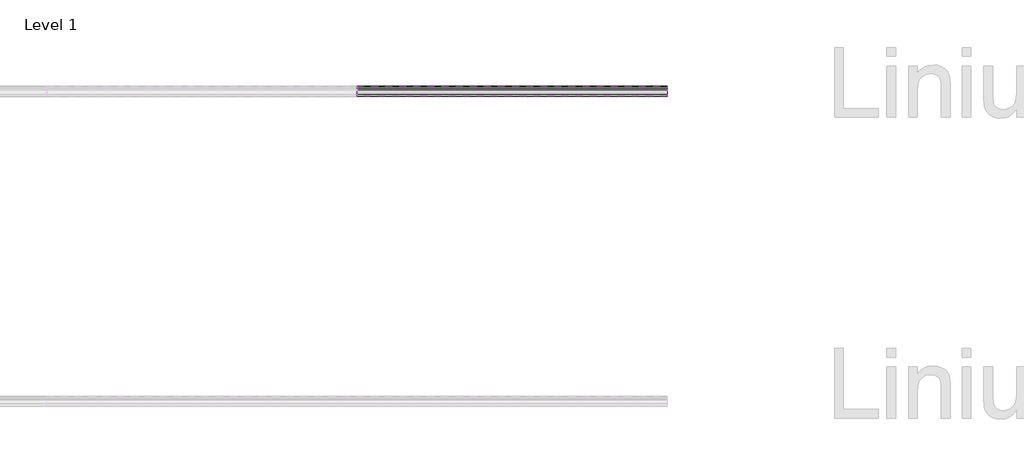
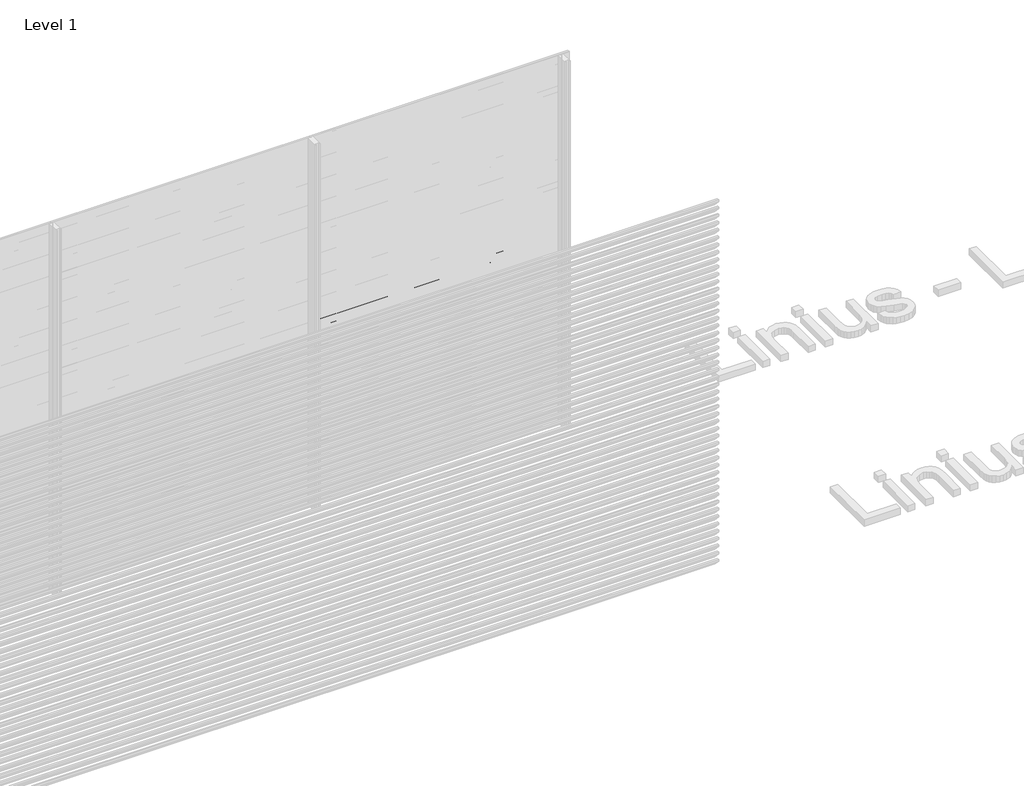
# One storey, part 118 of 153: 26 proxies.
"""IFC4 building model written with IfcOpenShell, lengths in millimetres."""

from ifc_helpers import new_model, si_unit, point, frame, frame_2d, origin, place, context, project, spatial, polyline, circle_curve, trimmed, segment, composite_curve, outline, extrude, element, save

model = new_model("IFC4")

# Units and contexts
model_context = context("Model", 3, world=origin())
ifc_project = project(units=[si_unit("LENGTHUNIT", "METRE", prefix="MILLI")], contexts=[model_context])

# Site, building, storey
site = spatial("IfcSite", under=ifc_project)
building = spatial("IfcBuilding", under=site)
storey = spatial("IfcBuildingStorey", under=building, Name="Level 1", Elevation=0.0)

# Proxies
placement = place(None, origin())
element("IfcBuildingElementProxy", 1, Name="Wall Sweeps", at=placement, inside=storey, context=model_context, shape_type="SweptSolid", body=[
    extrude(outline(composite_curve([segment(polyline([(51485.0540136, 1560.0), (51499.874191, 1558.7034025), (51549.0540136, 1505.0102749), (51549.0540136, 1493.6108187)]), True, "CONTINUOUS"), segment(trimmed(circle_curve(frame_2d((51545.7883652, 1493.897153)), 3.2781774), [point((51549.0540136, 1493.6108187))], [point((51546.4639442, 1490.6893438))], False, "CARTESIAN"), True, "CONTINUOUS"), segment(polyline([(51546.4639442, 1490.6893438), (51534.1895723, 1491.6282758), (51485.0540136, 1545.2730773), (51485.0540136, 1560.0)]), True, "CONTINUOUS")], self_intersect=False), holes=[composite_curve([segment(polyline([(51499.1621773, 1557.2599659), (51486.5540136, 1558.3630372), (51486.5540136, 1545.856213), (51534.8952036, 1493.0786805), (51546.3312542, 1492.2038762)]), True, "CONTINUOUS"), segment(trimmed(circle_curve(frame_2d((51545.7883652, 1493.897153)), 1.7781774), [point((51546.3312542, 1492.2038762))], [point((51547.5540136, 1493.6864389))], True, "CARTESIAN"), True, "CONTINUOUS"), segment(polyline([(51547.5540136, 1493.6864389), (51547.5540136, 1504.4271392), (51499.1621773, 1557.2599659)]), True, "CONTINUOUS")], self_intersect=False)]), frame((48966.6208096, 0.0, 0.0), z_axis=(1.0, 0.0, 0.0), x_axis=(0.0, 1.0, 0.0)), (0.0, 0.0, 1.0), 2000.0000001),
])
element("IfcBuildingElementProxy", 2, Name="Wall Sweeps", at=placement, inside=storey, context=model_context, shape_type="SweptSolid", body=[
    extrude(outline(composite_curve([segment(polyline([(51485.0540136, 1500.0), (51499.874191, 1498.7034025), (51549.0540136, 1445.0102749), (51549.0540136, 1433.6108187)]), True, "CONTINUOUS"), segment(trimmed(circle_curve(frame_2d((51545.7883652, 1433.897153)), 3.2781774), [point((51549.0540136, 1433.6108187))], [point((51546.4639442, 1430.6893438))], False, "CARTESIAN"), True, "CONTINUOUS"), segment(polyline([(51546.4639442, 1430.6893438), (51534.1895723, 1431.6282758), (51485.0540136, 1485.2730773), (51485.0540136, 1500.0)]), True, "CONTINUOUS")], self_intersect=False), holes=[composite_curve([segment(polyline([(51499.1621773, 1497.2599659), (51486.5540136, 1498.3630372), (51486.5540136, 1485.856213), (51534.8952036, 1433.0786805), (51546.3312542, 1432.2038762)]), True, "CONTINUOUS"), segment(trimmed(circle_curve(frame_2d((51545.7883652, 1433.897153)), 1.7781774), [point((51546.3312542, 1432.2038762))], [point((51547.5540136, 1433.6864389))], True, "CARTESIAN"), True, "CONTINUOUS"), segment(polyline([(51547.5540136, 1433.6864389), (51547.5540136, 1444.4271392), (51499.1621773, 1497.2599659)]), True, "CONTINUOUS")], self_intersect=False)]), frame((48966.6208096, 0.0, 0.0), z_axis=(1.0, 0.0, 0.0), x_axis=(0.0, 1.0, 0.0)), (0.0, 0.0, 1.0), 2000.0000001),
])
element("IfcBuildingElementProxy", 3, Name="Wall Sweeps", at=placement, inside=storey, context=model_context, shape_type="SweptSolid", body=[
    extrude(outline(composite_curve([segment(polyline([(51485.0540136, 1440.0), (51499.874191, 1438.7034025), (51549.0540136, 1385.0102749), (51549.0540136, 1373.6108187)]), True, "CONTINUOUS"), segment(trimmed(circle_curve(frame_2d((51545.7883652, 1373.897153)), 3.2781774), [point((51549.0540136, 1373.6108187))], [point((51546.4639442, 1370.6893438))], False, "CARTESIAN"), True, "CONTINUOUS"), segment(polyline([(51546.4639442, 1370.6893438), (51534.1895723, 1371.6282758), (51485.0540136, 1425.2730773), (51485.0540136, 1440.0)]), True, "CONTINUOUS")], self_intersect=False), holes=[composite_curve([segment(polyline([(51499.1621773, 1437.2599659), (51486.5540136, 1438.3630372), (51486.5540136, 1425.856213), (51534.8952036, 1373.0786805), (51546.3312542, 1372.2038762)]), True, "CONTINUOUS"), segment(trimmed(circle_curve(frame_2d((51545.7883652, 1373.897153)), 1.7781774), [point((51546.3312542, 1372.2038762))], [point((51547.5540136, 1373.6864389))], True, "CARTESIAN"), True, "CONTINUOUS"), segment(polyline([(51547.5540136, 1373.6864389), (51547.5540136, 1384.4271392), (51499.1621773, 1437.2599659)]), True, "CONTINUOUS")], self_intersect=False)]), frame((48966.6208096, 0.0, 0.0), z_axis=(1.0, 0.0, 0.0), x_axis=(0.0, 1.0, 0.0)), (0.0, 0.0, 1.0), 2000.0000001),
])
element("IfcBuildingElementProxy", 4, Name="Wall Sweeps", at=placement, inside=storey, context=model_context, shape_type="SweptSolid", body=[
    extrude(outline(composite_curve([segment(polyline([(51485.0540136, 1380.0), (51499.874191, 1378.7034025), (51549.0540136, 1325.0102749), (51549.0540136, 1313.6108187)]), True, "CONTINUOUS"), segment(trimmed(circle_curve(frame_2d((51545.7883652, 1313.897153)), 3.2781774), [point((51549.0540136, 1313.6108187))], [point((51546.4639442, 1310.6893438))], False, "CARTESIAN"), True, "CONTINUOUS"), segment(polyline([(51546.4639442, 1310.6893438), (51534.1895723, 1311.6282758), (51485.0540136, 1365.2730773), (51485.0540136, 1380.0)]), True, "CONTINUOUS")], self_intersect=False), holes=[composite_curve([segment(polyline([(51499.1621773, 1377.2599659), (51486.5540136, 1378.3630372), (51486.5540136, 1365.856213), (51534.8952036, 1313.0786805), (51546.3312542, 1312.2038762)]), True, "CONTINUOUS"), segment(trimmed(circle_curve(frame_2d((51545.7883652, 1313.897153)), 1.7781774), [point((51546.3312542, 1312.2038762))], [point((51547.5540136, 1313.6864389))], True, "CARTESIAN"), True, "CONTINUOUS"), segment(polyline([(51547.5540136, 1313.6864389), (51547.5540136, 1324.4271392), (51499.1621773, 1377.2599659)]), True, "CONTINUOUS")], self_intersect=False)]), frame((48966.6208096, 0.0, 0.0), z_axis=(1.0, 0.0, 0.0), x_axis=(0.0, 1.0, 0.0)), (0.0, 0.0, 1.0), 2000.0000001),
])
element("IfcBuildingElementProxy", 5, Name="Wall Sweeps", at=placement, inside=storey, context=model_context, shape_type="SweptSolid", body=[
    extrude(outline(composite_curve([segment(polyline([(51485.0540136, 1320.0), (51499.874191, 1318.7034025), (51549.0540136, 1265.0102749), (51549.0540136, 1253.6108187)]), True, "CONTINUOUS"), segment(trimmed(circle_curve(frame_2d((51545.7883652, 1253.897153)), 3.2781774), [point((51549.0540136, 1253.6108187))], [point((51546.4639442, 1250.6893438))], False, "CARTESIAN"), True, "CONTINUOUS"), segment(polyline([(51546.4639442, 1250.6893438), (51534.1895723, 1251.6282758), (51485.0540136, 1305.2730773), (51485.0540136, 1320.0)]), True, "CONTINUOUS")], self_intersect=False), holes=[composite_curve([segment(polyline([(51499.1621773, 1317.2599659), (51486.5540136, 1318.3630372), (51486.5540136, 1305.856213), (51534.8952036, 1253.0786805), (51546.3312542, 1252.2038762)]), True, "CONTINUOUS"), segment(trimmed(circle_curve(frame_2d((51545.7883652, 1253.897153)), 1.7781774), [point((51546.3312542, 1252.2038762))], [point((51547.5540136, 1253.6864389))], True, "CARTESIAN"), True, "CONTINUOUS"), segment(polyline([(51547.5540136, 1253.6864389), (51547.5540136, 1264.4271392), (51499.1621773, 1317.2599659)]), True, "CONTINUOUS")], self_intersect=False)]), frame((48966.6208096, 0.0, 0.0), z_axis=(1.0, 0.0, 0.0), x_axis=(0.0, 1.0, 0.0)), (0.0, 0.0, 1.0), 2000.0000001),
])
element("IfcBuildingElementProxy", 6, Name="Wall Sweeps", at=placement, inside=storey, context=model_context, shape_type="SweptSolid", body=[
    extrude(outline(composite_curve([segment(polyline([(51485.0540136, 1260.0), (51499.874191, 1258.7034025), (51549.0540136, 1205.0102749), (51549.0540136, 1193.6108187)]), True, "CONTINUOUS"), segment(trimmed(circle_curve(frame_2d((51545.7883652, 1193.897153)), 3.2781774), [point((51549.0540136, 1193.6108187))], [point((51546.4639442, 1190.6893438))], False, "CARTESIAN"), True, "CONTINUOUS"), segment(polyline([(51546.4639442, 1190.6893438), (51534.1895723, 1191.6282758), (51485.0540136, 1245.2730773), (51485.0540136, 1260.0)]), True, "CONTINUOUS")], self_intersect=False), holes=[composite_curve([segment(polyline([(51499.1621773, 1257.2599659), (51486.5540136, 1258.3630372), (51486.5540136, 1245.856213), (51534.8952036, 1193.0786805), (51546.3312542, 1192.2038762)]), True, "CONTINUOUS"), segment(trimmed(circle_curve(frame_2d((51545.7883652, 1193.897153)), 1.7781774), [point((51546.3312542, 1192.2038762))], [point((51547.5540136, 1193.6864389))], True, "CARTESIAN"), True, "CONTINUOUS"), segment(polyline([(51547.5540136, 1193.6864389), (51547.5540136, 1204.4271392), (51499.1621773, 1257.2599659)]), True, "CONTINUOUS")], self_intersect=False)]), frame((48966.6208096, 0.0, 0.0), z_axis=(1.0, 0.0, 0.0), x_axis=(0.0, 1.0, 0.0)), (0.0, 0.0, 1.0), 2000.0000001),
])
element("IfcBuildingElementProxy", 7, Name="Wall Sweeps", at=placement, inside=storey, context=model_context, shape_type="SweptSolid", body=[
    extrude(outline(composite_curve([segment(polyline([(51485.0540136, 1200.0), (51499.874191, 1198.7034025), (51549.0540136, 1145.0102749), (51549.0540136, 1133.6108187)]), True, "CONTINUOUS"), segment(trimmed(circle_curve(frame_2d((51545.7883652, 1133.897153)), 3.2781774), [point((51549.0540136, 1133.6108187))], [point((51546.4639442, 1130.6893438))], False, "CARTESIAN"), True, "CONTINUOUS"), segment(polyline([(51546.4639442, 1130.6893438), (51534.1895723, 1131.6282758), (51485.0540136, 1185.2730773), (51485.0540136, 1200.0)]), True, "CONTINUOUS")], self_intersect=False), holes=[composite_curve([segment(polyline([(51499.1621773, 1197.2599659), (51486.5540136, 1198.3630372), (51486.5540136, 1185.856213), (51534.8952036, 1133.0786805), (51546.3312542, 1132.2038762)]), True, "CONTINUOUS"), segment(trimmed(circle_curve(frame_2d((51545.7883652, 1133.897153)), 1.7781774), [point((51546.3312542, 1132.2038762))], [point((51547.5540136, 1133.6864389))], True, "CARTESIAN"), True, "CONTINUOUS"), segment(polyline([(51547.5540136, 1133.6864389), (51547.5540136, 1144.4271392), (51499.1621773, 1197.2599659)]), True, "CONTINUOUS")], self_intersect=False)]), frame((48966.6208096, 0.0, 0.0), z_axis=(1.0, 0.0, 0.0), x_axis=(0.0, 1.0, 0.0)), (0.0, 0.0, 1.0), 2000.0000001),
])
element("IfcBuildingElementProxy", 8, Name="Wall Sweeps", at=placement, inside=storey, context=model_context, shape_type="SweptSolid", body=[
    extrude(outline(composite_curve([segment(polyline([(51485.0540136, 1140.0), (51499.874191, 1138.7034025), (51549.0540136, 1085.0102749), (51549.0540136, 1073.6108187)]), True, "CONTINUOUS"), segment(trimmed(circle_curve(frame_2d((51545.7883652, 1073.897153)), 3.2781774), [point((51549.0540136, 1073.6108187))], [point((51546.4639442, 1070.6893438))], False, "CARTESIAN"), True, "CONTINUOUS"), segment(polyline([(51546.4639442, 1070.6893438), (51534.1895723, 1071.6282758), (51485.0540136, 1125.2730773), (51485.0540136, 1140.0)]), True, "CONTINUOUS")], self_intersect=False), holes=[composite_curve([segment(polyline([(51499.1621773, 1137.2599659), (51486.5540136, 1138.3630372), (51486.5540136, 1125.856213), (51534.8952036, 1073.0786805), (51546.3312542, 1072.2038762)]), True, "CONTINUOUS"), segment(trimmed(circle_curve(frame_2d((51545.7883652, 1073.897153)), 1.7781774), [point((51546.3312542, 1072.2038762))], [point((51547.5540136, 1073.6864389))], True, "CARTESIAN"), True, "CONTINUOUS"), segment(polyline([(51547.5540136, 1073.6864389), (51547.5540136, 1084.4271392), (51499.1621773, 1137.2599659)]), True, "CONTINUOUS")], self_intersect=False)]), frame((48966.6208096, 0.0, 0.0), z_axis=(1.0, 0.0, 0.0), x_axis=(0.0, 1.0, 0.0)), (0.0, 0.0, 1.0), 2000.0000001),
])
element("IfcBuildingElementProxy", 9, Name="Wall Sweeps", at=placement, inside=storey, context=model_context, shape_type="SweptSolid", body=[
    extrude(outline(composite_curve([segment(polyline([(51485.0540136, 1080.0), (51499.874191, 1078.7034025), (51549.0540136, 1025.0102749), (51549.0540136, 1013.6108187)]), True, "CONTINUOUS"), segment(trimmed(circle_curve(frame_2d((51545.7883652, 1013.897153)), 3.2781774), [point((51549.0540136, 1013.6108187))], [point((51546.4639442, 1010.6893438))], False, "CARTESIAN"), True, "CONTINUOUS"), segment(polyline([(51546.4639442, 1010.6893438), (51534.1895723, 1011.6282758), (51485.0540136, 1065.2730773), (51485.0540136, 1080.0)]), True, "CONTINUOUS")], self_intersect=False), holes=[composite_curve([segment(polyline([(51499.1621773, 1077.2599659), (51486.5540136, 1078.3630372), (51486.5540136, 1065.856213), (51534.8952036, 1013.0786805), (51546.3312542, 1012.2038762)]), True, "CONTINUOUS"), segment(trimmed(circle_curve(frame_2d((51545.7883652, 1013.897153)), 1.7781774), [point((51546.3312542, 1012.2038762))], [point((51547.5540136, 1013.6864389))], True, "CARTESIAN"), True, "CONTINUOUS"), segment(polyline([(51547.5540136, 1013.6864389), (51547.5540136, 1024.4271392), (51499.1621773, 1077.2599659)]), True, "CONTINUOUS")], self_intersect=False)]), frame((48966.6208096, 0.0, 0.0), z_axis=(1.0, 0.0, 0.0), x_axis=(0.0, 1.0, 0.0)), (0.0, 0.0, 1.0), 2000.0000001),
])
element("IfcBuildingElementProxy", 10, Name="Wall Sweeps", at=placement, inside=storey, context=model_context, shape_type="SweptSolid", body=[
    extrude(outline(composite_curve([segment(polyline([(51485.0540136, 1020.0), (51499.874191, 1018.7034025), (51549.0540136, 965.0102749), (51549.0540136, 953.6108187)]), True, "CONTINUOUS"), segment(trimmed(circle_curve(frame_2d((51545.7883652, 953.897153)), 3.2781774), [point((51549.0540136, 953.6108187))], [point((51546.4639442, 950.6893438))], False, "CARTESIAN"), True, "CONTINUOUS"), segment(polyline([(51546.4639442, 950.6893438), (51534.1895723, 951.6282758), (51485.0540136, 1005.2730773), (51485.0540136, 1020.0)]), True, "CONTINUOUS")], self_intersect=False), holes=[composite_curve([segment(polyline([(51499.1621773, 1017.2599659), (51486.5540136, 1018.3630372), (51486.5540136, 1005.856213), (51534.8952036, 953.0786805), (51546.3312542, 952.2038762)]), True, "CONTINUOUS"), segment(trimmed(circle_curve(frame_2d((51545.7883652, 953.897153)), 1.7781774), [point((51546.3312542, 952.2038762))], [point((51547.5540136, 953.6864389))], True, "CARTESIAN"), True, "CONTINUOUS"), segment(polyline([(51547.5540136, 953.6864389), (51547.5540136, 964.4271392), (51499.1621773, 1017.2599659)]), True, "CONTINUOUS")], self_intersect=False)]), frame((48966.6208096, 0.0, 0.0), z_axis=(1.0, 0.0, 0.0), x_axis=(0.0, 1.0, 0.0)), (0.0, 0.0, 1.0), 2000.0000001),
])
element("IfcBuildingElementProxy", 11, Name="Wall Sweeps", at=placement, inside=storey, context=model_context, shape_type="SweptSolid", body=[
    extrude(outline(composite_curve([segment(polyline([(51485.0540136, 960.0), (51499.874191, 958.7034025), (51549.0540136, 905.0102749), (51549.0540136, 893.6108187)]), True, "CONTINUOUS"), segment(trimmed(circle_curve(frame_2d((51545.7883652, 893.897153)), 3.2781774), [point((51549.0540136, 893.6108187))], [point((51546.4639442, 890.6893438))], False, "CARTESIAN"), True, "CONTINUOUS"), segment(polyline([(51546.4639442, 890.6893438), (51534.1895723, 891.6282758), (51485.0540136, 945.2730773), (51485.0540136, 960.0)]), True, "CONTINUOUS")], self_intersect=False), holes=[composite_curve([segment(polyline([(51499.1621773, 957.2599659), (51486.5540136, 958.3630372), (51486.5540136, 945.856213), (51534.8952036, 893.0786805), (51546.3312542, 892.2038762)]), True, "CONTINUOUS"), segment(trimmed(circle_curve(frame_2d((51545.7883652, 893.897153)), 1.7781774), [point((51546.3312542, 892.2038762))], [point((51547.5540136, 893.6864389))], True, "CARTESIAN"), True, "CONTINUOUS"), segment(polyline([(51547.5540136, 893.6864389), (51547.5540136, 904.4271392), (51499.1621773, 957.2599659)]), True, "CONTINUOUS")], self_intersect=False)]), frame((48966.6208096, 0.0, 0.0), z_axis=(1.0, 0.0, 0.0), x_axis=(0.0, 1.0, 0.0)), (0.0, 0.0, 1.0), 2000.0000001),
])
element("IfcBuildingElementProxy", 12, Name="Wall Sweeps", at=placement, inside=storey, context=model_context, shape_type="SweptSolid", body=[
    extrude(outline(composite_curve([segment(polyline([(51485.0540136, 900.0), (51499.874191, 898.7034025), (51549.0540136, 845.0102749), (51549.0540136, 833.6108187)]), True, "CONTINUOUS"), segment(trimmed(circle_curve(frame_2d((51545.7883652, 833.897153)), 3.2781774), [point((51549.0540136, 833.6108187))], [point((51546.4639442, 830.6893438))], False, "CARTESIAN"), True, "CONTINUOUS"), segment(polyline([(51546.4639442, 830.6893438), (51534.1895723, 831.6282758), (51485.0540136, 885.2730773), (51485.0540136, 900.0)]), True, "CONTINUOUS")], self_intersect=False), holes=[composite_curve([segment(polyline([(51499.1621773, 897.2599659), (51486.5540136, 898.3630372), (51486.5540136, 885.856213), (51534.8952036, 833.0786805), (51546.3312542, 832.2038762)]), True, "CONTINUOUS"), segment(trimmed(circle_curve(frame_2d((51545.7883652, 833.897153)), 1.7781774), [point((51546.3312542, 832.2038762))], [point((51547.5540136, 833.6864389))], True, "CARTESIAN"), True, "CONTINUOUS"), segment(polyline([(51547.5540136, 833.6864389), (51547.5540136, 844.4271392), (51499.1621773, 897.2599659)]), True, "CONTINUOUS")], self_intersect=False)]), frame((48966.6208096, 0.0, 0.0), z_axis=(1.0, 0.0, 0.0), x_axis=(0.0, 1.0, 0.0)), (0.0, 0.0, 1.0), 2000.0000001),
])
element("IfcBuildingElementProxy", 13, Name="Wall Sweeps", at=placement, inside=storey, context=model_context, shape_type="SweptSolid", body=[
    extrude(outline(composite_curve([segment(polyline([(51485.0540136, 840.0), (51499.874191, 838.7034025), (51549.0540136, 785.0102749), (51549.0540136, 773.6108187)]), True, "CONTINUOUS"), segment(trimmed(circle_curve(frame_2d((51545.7883652, 773.897153)), 3.2781774), [point((51549.0540136, 773.6108187))], [point((51546.4639442, 770.6893438))], False, "CARTESIAN"), True, "CONTINUOUS"), segment(polyline([(51546.4639442, 770.6893438), (51534.1895723, 771.6282758), (51485.0540136, 825.2730773), (51485.0540136, 840.0)]), True, "CONTINUOUS")], self_intersect=False), holes=[composite_curve([segment(polyline([(51499.1621773, 837.2599659), (51486.5540136, 838.3630372), (51486.5540136, 825.856213), (51534.8952036, 773.0786805), (51546.3312542, 772.2038762)]), True, "CONTINUOUS"), segment(trimmed(circle_curve(frame_2d((51545.7883652, 773.897153)), 1.7781774), [point((51546.3312542, 772.2038762))], [point((51547.5540136, 773.6864389))], True, "CARTESIAN"), True, "CONTINUOUS"), segment(polyline([(51547.5540136, 773.6864389), (51547.5540136, 784.4271392), (51499.1621773, 837.2599659)]), True, "CONTINUOUS")], self_intersect=False)]), frame((48966.6208096, 0.0, 0.0), z_axis=(1.0, 0.0, 0.0), x_axis=(0.0, 1.0, 0.0)), (0.0, 0.0, 1.0), 2000.0000001),
])
element("IfcBuildingElementProxy", 14, Name="Wall Sweeps", at=placement, inside=storey, context=model_context, shape_type="SweptSolid", body=[
    extrude(outline(composite_curve([segment(polyline([(51485.0540136, 780.0), (51499.874191, 778.7034025), (51549.0540136, 725.0102749), (51549.0540136, 713.6108187)]), True, "CONTINUOUS"), segment(trimmed(circle_curve(frame_2d((51545.7883652, 713.897153)), 3.2781774), [point((51549.0540136, 713.6108187))], [point((51546.4639442, 710.6893438))], False, "CARTESIAN"), True, "CONTINUOUS"), segment(polyline([(51546.4639442, 710.6893438), (51534.1895723, 711.6282758), (51485.0540136, 765.2730773), (51485.0540136, 780.0)]), True, "CONTINUOUS")], self_intersect=False), holes=[composite_curve([segment(polyline([(51499.1621773, 777.2599659), (51486.5540136, 778.3630372), (51486.5540136, 765.856213), (51534.8952036, 713.0786805), (51546.3312542, 712.2038762)]), True, "CONTINUOUS"), segment(trimmed(circle_curve(frame_2d((51545.7883652, 713.897153)), 1.7781774), [point((51546.3312542, 712.2038762))], [point((51547.5540136, 713.6864389))], True, "CARTESIAN"), True, "CONTINUOUS"), segment(polyline([(51547.5540136, 713.6864389), (51547.5540136, 724.4271392), (51499.1621773, 777.2599659)]), True, "CONTINUOUS")], self_intersect=False)]), frame((48966.6208096, 0.0, 0.0), z_axis=(1.0, 0.0, 0.0), x_axis=(0.0, 1.0, 0.0)), (0.0, 0.0, 1.0), 2000.0000001),
])
element("IfcBuildingElementProxy", 15, Name="Wall Sweeps", at=placement, inside=storey, context=model_context, shape_type="SweptSolid", body=[
    extrude(outline(composite_curve([segment(polyline([(51485.0540136, 720.0), (51499.874191, 718.7034025), (51549.0540136, 665.0102749), (51549.0540136, 653.6108187)]), True, "CONTINUOUS"), segment(trimmed(circle_curve(frame_2d((51545.7883652, 653.897153)), 3.2781774), [point((51549.0540136, 653.6108187))], [point((51546.4639442, 650.6893438))], False, "CARTESIAN"), True, "CONTINUOUS"), segment(polyline([(51546.4639442, 650.6893438), (51534.1895723, 651.6282758), (51485.0540136, 705.2730773), (51485.0540136, 720.0)]), True, "CONTINUOUS")], self_intersect=False), holes=[composite_curve([segment(polyline([(51499.1621773, 717.2599659), (51486.5540136, 718.3630372), (51486.5540136, 705.856213), (51534.8952036, 653.0786805), (51546.3312542, 652.2038762)]), True, "CONTINUOUS"), segment(trimmed(circle_curve(frame_2d((51545.7883652, 653.897153)), 1.7781774), [point((51546.3312542, 652.2038762))], [point((51547.5540136, 653.6864389))], True, "CARTESIAN"), True, "CONTINUOUS"), segment(polyline([(51547.5540136, 653.6864389), (51547.5540136, 664.4271392), (51499.1621773, 717.2599659)]), True, "CONTINUOUS")], self_intersect=False)]), frame((48966.6208096, 0.0, 0.0), z_axis=(1.0, 0.0, 0.0), x_axis=(0.0, 1.0, 0.0)), (0.0, 0.0, 1.0), 2000.0000001),
])
element("IfcBuildingElementProxy", 16, Name="Wall Sweeps", at=placement, inside=storey, context=model_context, shape_type="SweptSolid", body=[
    extrude(outline(composite_curve([segment(polyline([(51485.0540136, 660.0), (51499.874191, 658.7034025), (51549.0540136, 605.0102749), (51549.0540136, 593.6108187)]), True, "CONTINUOUS"), segment(trimmed(circle_curve(frame_2d((51545.7883652, 593.897153)), 3.2781774), [point((51549.0540136, 593.6108187))], [point((51546.4639442, 590.6893438))], False, "CARTESIAN"), True, "CONTINUOUS"), segment(polyline([(51546.4639442, 590.6893438), (51534.1895723, 591.6282758), (51485.0540136, 645.2730773), (51485.0540136, 660.0)]), True, "CONTINUOUS")], self_intersect=False), holes=[composite_curve([segment(polyline([(51499.1621773, 657.2599659), (51486.5540136, 658.3630372), (51486.5540136, 645.856213), (51534.8952036, 593.0786805), (51546.3312542, 592.2038762)]), True, "CONTINUOUS"), segment(trimmed(circle_curve(frame_2d((51545.7883652, 593.897153)), 1.7781774), [point((51546.3312542, 592.2038762))], [point((51547.5540136, 593.6864389))], True, "CARTESIAN"), True, "CONTINUOUS"), segment(polyline([(51547.5540136, 593.6864389), (51547.5540136, 604.4271392), (51499.1621773, 657.2599659)]), True, "CONTINUOUS")], self_intersect=False)]), frame((48966.6208096, 0.0, 0.0), z_axis=(1.0, 0.0, 0.0), x_axis=(0.0, 1.0, 0.0)), (0.0, 0.0, 1.0), 2000.0000001),
])
element("IfcBuildingElementProxy", 17, Name="Wall Sweeps", at=placement, inside=storey, context=model_context, shape_type="SweptSolid", body=[
    extrude(outline(composite_curve([segment(polyline([(51485.0540136, 600.0), (51499.874191, 598.7034025), (51549.0540136, 545.0102749), (51549.0540136, 533.6108187)]), True, "CONTINUOUS"), segment(trimmed(circle_curve(frame_2d((51545.7883652, 533.897153)), 3.2781774), [point((51549.0540136, 533.6108187))], [point((51546.4639442, 530.6893438))], False, "CARTESIAN"), True, "CONTINUOUS"), segment(polyline([(51546.4639442, 530.6893438), (51534.1895723, 531.6282758), (51485.0540136, 585.2730773), (51485.0540136, 600.0)]), True, "CONTINUOUS")], self_intersect=False), holes=[composite_curve([segment(polyline([(51499.1621773, 597.2599659), (51486.5540136, 598.3630372), (51486.5540136, 585.856213), (51534.8952036, 533.0786805), (51546.3312542, 532.2038762)]), True, "CONTINUOUS"), segment(trimmed(circle_curve(frame_2d((51545.7883652, 533.897153)), 1.7781774), [point((51546.3312542, 532.2038762))], [point((51547.5540136, 533.6864389))], True, "CARTESIAN"), True, "CONTINUOUS"), segment(polyline([(51547.5540136, 533.6864389), (51547.5540136, 544.4271392), (51499.1621773, 597.2599659)]), True, "CONTINUOUS")], self_intersect=False)]), frame((48966.6208096, 0.0, 0.0), z_axis=(1.0, 0.0, 0.0), x_axis=(0.0, 1.0, 0.0)), (0.0, 0.0, 1.0), 2000.0000001),
])
element("IfcBuildingElementProxy", 18, Name="Wall Sweeps", at=placement, inside=storey, context=model_context, shape_type="SweptSolid", body=[
    extrude(outline(composite_curve([segment(polyline([(51485.0540136, 540.0), (51499.874191, 538.7034025), (51549.0540136, 485.0102749), (51549.0540136, 473.6108187)]), True, "CONTINUOUS"), segment(trimmed(circle_curve(frame_2d((51545.7883652, 473.897153)), 3.2781774), [point((51549.0540136, 473.6108187))], [point((51546.4639442, 470.6893438))], False, "CARTESIAN"), True, "CONTINUOUS"), segment(polyline([(51546.4639442, 470.6893438), (51534.1895723, 471.6282758), (51485.0540136, 525.2730773), (51485.0540136, 540.0)]), True, "CONTINUOUS")], self_intersect=False), holes=[composite_curve([segment(polyline([(51499.1621773, 537.2599659), (51486.5540136, 538.3630372), (51486.5540136, 525.856213), (51534.8952036, 473.0786805), (51546.3312542, 472.2038762)]), True, "CONTINUOUS"), segment(trimmed(circle_curve(frame_2d((51545.7883652, 473.897153)), 1.7781774), [point((51546.3312542, 472.2038762))], [point((51547.5540136, 473.6864389))], True, "CARTESIAN"), True, "CONTINUOUS"), segment(polyline([(51547.5540136, 473.6864389), (51547.5540136, 484.4271392), (51499.1621773, 537.2599659)]), True, "CONTINUOUS")], self_intersect=False)]), frame((48966.6208096, 0.0, 0.0), z_axis=(1.0, 0.0, 0.0), x_axis=(0.0, 1.0, 0.0)), (0.0, 0.0, 1.0), 2000.0000001),
])
element("IfcBuildingElementProxy", 19, Name="Wall Sweeps", at=placement, inside=storey, context=model_context, shape_type="SweptSolid", body=[
    extrude(outline(composite_curve([segment(polyline([(51485.0540136, 480.0), (51499.874191, 478.7034025), (51549.0540136, 425.0102749), (51549.0540136, 413.6108187)]), True, "CONTINUOUS"), segment(trimmed(circle_curve(frame_2d((51545.7883652, 413.897153)), 3.2781774), [point((51549.0540136, 413.6108187))], [point((51546.4639442, 410.6893438))], False, "CARTESIAN"), True, "CONTINUOUS"), segment(polyline([(51546.4639442, 410.6893438), (51534.1895723, 411.6282758), (51485.0540136, 465.2730773), (51485.0540136, 480.0)]), True, "CONTINUOUS")], self_intersect=False), holes=[composite_curve([segment(polyline([(51499.1621773, 477.2599659), (51486.5540136, 478.3630372), (51486.5540136, 465.856213), (51534.8952036, 413.0786805), (51546.3312542, 412.2038762)]), True, "CONTINUOUS"), segment(trimmed(circle_curve(frame_2d((51545.7883652, 413.897153)), 1.7781774), [point((51546.3312542, 412.2038762))], [point((51547.5540136, 413.6864389))], True, "CARTESIAN"), True, "CONTINUOUS"), segment(polyline([(51547.5540136, 413.6864389), (51547.5540136, 424.4271392), (51499.1621773, 477.2599659)]), True, "CONTINUOUS")], self_intersect=False)]), frame((48966.6208096, 0.0, 0.0), z_axis=(1.0, 0.0, 0.0), x_axis=(0.0, 1.0, 0.0)), (0.0, 0.0, 1.0), 2000.0000001),
])
element("IfcBuildingElementProxy", 20, Name="Wall Sweeps", at=placement, inside=storey, context=model_context, shape_type="SweptSolid", body=[
    extrude(outline(composite_curve([segment(polyline([(51485.0540136, 420.0), (51499.874191, 418.7034025), (51549.0540136, 365.0102749), (51549.0540136, 353.6108187)]), True, "CONTINUOUS"), segment(trimmed(circle_curve(frame_2d((51545.7883652, 353.897153)), 3.2781774), [point((51549.0540136, 353.6108187))], [point((51546.4639442, 350.6893438))], False, "CARTESIAN"), True, "CONTINUOUS"), segment(polyline([(51546.4639442, 350.6893438), (51534.1895723, 351.6282758), (51485.0540136, 405.2730773), (51485.0540136, 420.0)]), True, "CONTINUOUS")], self_intersect=False), holes=[composite_curve([segment(polyline([(51499.1621773, 417.2599659), (51486.5540136, 418.3630372), (51486.5540136, 405.856213), (51534.8952036, 353.0786805), (51546.3312542, 352.2038762)]), True, "CONTINUOUS"), segment(trimmed(circle_curve(frame_2d((51545.7883652, 353.897153)), 1.7781774), [point((51546.3312542, 352.2038762))], [point((51547.5540136, 353.6864389))], True, "CARTESIAN"), True, "CONTINUOUS"), segment(polyline([(51547.5540136, 353.6864389), (51547.5540136, 364.4271392), (51499.1621773, 417.2599659)]), True, "CONTINUOUS")], self_intersect=False)]), frame((48966.6208096, 0.0, 0.0), z_axis=(1.0, 0.0, 0.0), x_axis=(0.0, 1.0, 0.0)), (0.0, 0.0, 1.0), 2000.0000001),
])
element("IfcBuildingElementProxy", 21, Name="Wall Sweeps", at=placement, inside=storey, context=model_context, shape_type="SweptSolid", body=[
    extrude(outline(composite_curve([segment(polyline([(51485.0540136, 360.0), (51499.874191, 358.7034025), (51549.0540136, 305.0102749), (51549.0540136, 293.6108187)]), True, "CONTINUOUS"), segment(trimmed(circle_curve(frame_2d((51545.7883652, 293.897153)), 3.2781774), [point((51549.0540136, 293.6108187))], [point((51546.4639442, 290.6893438))], False, "CARTESIAN"), True, "CONTINUOUS"), segment(polyline([(51546.4639442, 290.6893438), (51534.1895723, 291.6282758), (51485.0540136, 345.2730773), (51485.0540136, 360.0)]), True, "CONTINUOUS")], self_intersect=False), holes=[composite_curve([segment(polyline([(51499.1621773, 357.2599659), (51486.5540136, 358.3630372), (51486.5540136, 345.856213), (51534.8952036, 293.0786805), (51546.3312542, 292.2038762)]), True, "CONTINUOUS"), segment(trimmed(circle_curve(frame_2d((51545.7883652, 293.897153)), 1.7781774), [point((51546.3312542, 292.2038762))], [point((51547.5540136, 293.6864389))], True, "CARTESIAN"), True, "CONTINUOUS"), segment(polyline([(51547.5540136, 293.6864389), (51547.5540136, 304.4271392), (51499.1621773, 357.2599659)]), True, "CONTINUOUS")], self_intersect=False)]), frame((48966.6208096, 0.0, 0.0), z_axis=(1.0, 0.0, 0.0), x_axis=(0.0, 1.0, 0.0)), (0.0, 0.0, 1.0), 2000.0000001),
])
element("IfcBuildingElementProxy", 22, Name="Wall Sweeps", at=placement, inside=storey, context=model_context, shape_type="SweptSolid", body=[
    extrude(outline(composite_curve([segment(polyline([(51485.0540136, 300.0), (51499.874191, 298.7034025), (51549.0540136, 245.0102749), (51549.0540136, 233.6108187)]), True, "CONTINUOUS"), segment(trimmed(circle_curve(frame_2d((51545.7883652, 233.897153)), 3.2781774), [point((51549.0540136, 233.6108187))], [point((51546.4639442, 230.6893438))], False, "CARTESIAN"), True, "CONTINUOUS"), segment(polyline([(51546.4639442, 230.6893438), (51534.1895723, 231.6282758), (51485.0540136, 285.2730773), (51485.0540136, 300.0)]), True, "CONTINUOUS")], self_intersect=False), holes=[composite_curve([segment(polyline([(51499.1621773, 297.2599659), (51486.5540136, 298.3630372), (51486.5540136, 285.856213), (51534.8952036, 233.0786805), (51546.3312542, 232.2038762)]), True, "CONTINUOUS"), segment(trimmed(circle_curve(frame_2d((51545.7883652, 233.897153)), 1.7781774), [point((51546.3312542, 232.2038762))], [point((51547.5540136, 233.6864389))], True, "CARTESIAN"), True, "CONTINUOUS"), segment(polyline([(51547.5540136, 233.6864389), (51547.5540136, 244.4271392), (51499.1621773, 297.2599659)]), True, "CONTINUOUS")], self_intersect=False)]), frame((48966.6208096, 0.0, 0.0), z_axis=(1.0, 0.0, 0.0), x_axis=(0.0, 1.0, 0.0)), (0.0, 0.0, 1.0), 2000.0000001),
])
element("IfcBuildingElementProxy", 23, Name="Wall Sweeps", at=placement, inside=storey, context=model_context, shape_type="SweptSolid", body=[
    extrude(outline(composite_curve([segment(polyline([(51485.0540136, 240.0), (51499.874191, 238.7034025), (51549.0540136, 185.0102749), (51549.0540136, 173.6108187)]), True, "CONTINUOUS"), segment(trimmed(circle_curve(frame_2d((51545.7883652, 173.897153)), 3.2781774), [point((51549.0540136, 173.6108187))], [point((51546.4639442, 170.6893438))], False, "CARTESIAN"), True, "CONTINUOUS"), segment(polyline([(51546.4639442, 170.6893438), (51534.1895723, 171.6282758), (51485.0540136, 225.2730773), (51485.0540136, 240.0)]), True, "CONTINUOUS")], self_intersect=False), holes=[composite_curve([segment(polyline([(51499.1621773, 237.2599659), (51486.5540136, 238.3630372), (51486.5540136, 225.856213), (51534.8952036, 173.0786805), (51546.3312542, 172.2038762)]), True, "CONTINUOUS"), segment(trimmed(circle_curve(frame_2d((51545.7883652, 173.897153)), 1.7781774), [point((51546.3312542, 172.2038762))], [point((51547.5540136, 173.6864389))], True, "CARTESIAN"), True, "CONTINUOUS"), segment(polyline([(51547.5540136, 173.6864389), (51547.5540136, 184.4271392), (51499.1621773, 237.2599659)]), True, "CONTINUOUS")], self_intersect=False)]), frame((48966.6208096, 0.0, 0.0), z_axis=(1.0, 0.0, 0.0), x_axis=(0.0, 1.0, 0.0)), (0.0, 0.0, 1.0), 2000.0000001),
])
element("IfcBuildingElementProxy", 24, Name="Wall Sweeps", at=placement, inside=storey, context=model_context, shape_type="SweptSolid", body=[
    extrude(outline(composite_curve([segment(polyline([(51485.0540136, 180.0), (51499.874191, 178.7034025), (51549.0540136, 125.0102749), (51549.0540136, 113.6108187)]), True, "CONTINUOUS"), segment(trimmed(circle_curve(frame_2d((51545.7883652, 113.897153)), 3.2781774), [point((51549.0540136, 113.6108187))], [point((51546.4639442, 110.6893438))], False, "CARTESIAN"), True, "CONTINUOUS"), segment(polyline([(51546.4639442, 110.6893438), (51534.1895723, 111.6282758), (51485.0540136, 165.2730773), (51485.0540136, 180.0)]), True, "CONTINUOUS")], self_intersect=False), holes=[composite_curve([segment(polyline([(51499.1621773, 177.2599659), (51486.5540136, 178.3630372), (51486.5540136, 165.856213), (51534.8952036, 113.0786805), (51546.3312542, 112.2038762)]), True, "CONTINUOUS"), segment(trimmed(circle_curve(frame_2d((51545.7883652, 113.897153)), 1.7781774), [point((51546.3312542, 112.2038762))], [point((51547.5540136, 113.6864389))], True, "CARTESIAN"), True, "CONTINUOUS"), segment(polyline([(51547.5540136, 113.6864389), (51547.5540136, 124.4271392), (51499.1621773, 177.2599659)]), True, "CONTINUOUS")], self_intersect=False)]), frame((48966.6208096, 0.0, 0.0), z_axis=(1.0, 0.0, 0.0), x_axis=(0.0, 1.0, 0.0)), (0.0, 0.0, 1.0), 2000.0000001),
])
element("IfcBuildingElementProxy", 25, Name="Wall Sweeps", at=placement, inside=storey, context=model_context, shape_type="SweptSolid", body=[
    extrude(outline(composite_curve([segment(polyline([(51485.0540136, 120.0), (51499.874191, 118.7034025), (51549.0540136, 65.0102749), (51549.0540136, 53.6108187)]), True, "CONTINUOUS"), segment(trimmed(circle_curve(frame_2d((51545.7883652, 53.897153)), 3.2781774), [point((51549.0540136, 53.6108187))], [point((51546.4639442, 50.6893438))], False, "CARTESIAN"), True, "CONTINUOUS"), segment(polyline([(51546.4639442, 50.6893438), (51534.1895723, 51.6282758), (51485.0540136, 105.2730773), (51485.0540136, 120.0)]), True, "CONTINUOUS")], self_intersect=False), holes=[composite_curve([segment(polyline([(51499.1621773, 117.2599659), (51486.5540136, 118.3630372), (51486.5540136, 105.856213), (51534.8952036, 53.0786805), (51546.3312542, 52.2038762)]), True, "CONTINUOUS"), segment(trimmed(circle_curve(frame_2d((51545.7883652, 53.897153)), 1.7781774), [point((51546.3312542, 52.2038762))], [point((51547.5540136, 53.6864389))], True, "CARTESIAN"), True, "CONTINUOUS"), segment(polyline([(51547.5540136, 53.6864389), (51547.5540136, 64.4271392), (51499.1621773, 117.2599659)]), True, "CONTINUOUS")], self_intersect=False)]), frame((48966.6208096, 0.0, 0.0), z_axis=(1.0, 0.0, 0.0), x_axis=(0.0, 1.0, 0.0)), (0.0, 0.0, 1.0), 2000.0000001),
])
element("IfcBuildingElementProxy", 26, Name="Wall Sweeps", at=placement, inside=storey, context=model_context, shape_type="SweptSolid", body=[
    extrude(outline(composite_curve([segment(polyline([(51485.0540136, 60.0), (51499.874191, 58.7034025), (51549.0540136, 5.0102749), (51549.0540136, -6.3891813)]), True, "CONTINUOUS"), segment(trimmed(circle_curve(frame_2d((51545.7883652, -6.102847)), 3.2781774), [point((51549.0540136, -6.3891813))], [point((51546.4639442, -9.3106562))], False, "CARTESIAN"), True, "CONTINUOUS"), segment(polyline([(51546.4639442, -9.3106562), (51534.1895723, -8.3717242), (51485.0540136, 45.2730773), (51485.0540136, 60.0)]), True, "CONTINUOUS")], self_intersect=False), holes=[composite_curve([segment(polyline([(51499.1621773, 57.2599659), (51486.5540136, 58.3630372), (51486.5540136, 45.856213), (51534.8952036, -6.9213195), (51546.3312542, -7.7961238)]), True, "CONTINUOUS"), segment(trimmed(circle_curve(frame_2d((51545.7883652, -6.102847)), 1.7781774), [point((51546.3312542, -7.7961238))], [point((51547.5540136, -6.3135611))], True, "CARTESIAN"), True, "CONTINUOUS"), segment(polyline([(51547.5540136, -6.3135611), (51547.5540136, 4.4271392), (51499.1621773, 57.2599659)]), True, "CONTINUOUS")], self_intersect=False)]), frame((48966.6208096, 0.0, 0.0), z_axis=(1.0, 0.0, 0.0), x_axis=(0.0, 1.0, 0.0)), (0.0, 0.0, 1.0), 2000.0000001),
])

save(model, "model.ifc")
